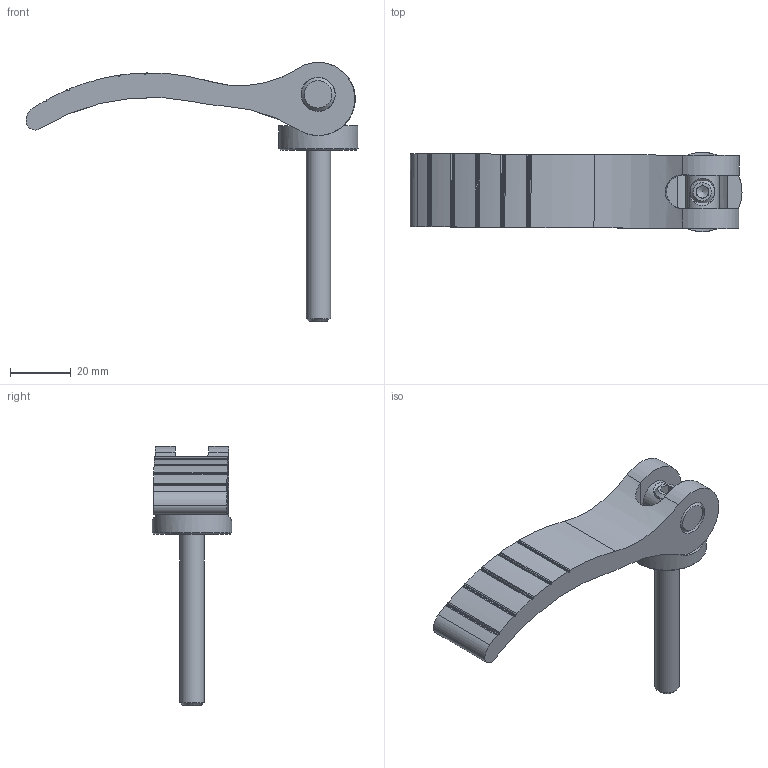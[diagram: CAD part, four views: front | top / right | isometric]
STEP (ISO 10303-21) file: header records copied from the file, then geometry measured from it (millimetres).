
FILE_DESCRIPTION(('STEP AP203'), '1');
FILE_NAME('À00360.111080825 _ Ýêñöåíòðèê 108 ìì', '', ('UNSPECIFIED'), ('UNSPECIFIED'), 'C3D Converter', 'C3D Toolkit', '');
FILE_SCHEMA(('CONFIG_CONTROL_DESIGN'));
Length unit declared in the file: millimetre
Products named in the file (5): А00360.108.03; А00360.108.02; А00360.108.01
Assembly tree (4 placements, depth 2):
  (unnamed)
    А00360.108.03
    А00360.108.02
    А00360.108.01
    (unnamed)
Bounding box: 108.87 x 26 x 84.97 mm (x, y, z)
Volume: 30049.2 mm3; surface area: 13440.7 mm2
Topology: 4 solids, 4 shells, 79 faces, 203 edges, 132 vertices
Faces by surface type: cylinder 38, plane 33, cone 6, bspline 2
Full cylindrical faces by diameter (mm): 6.647 x1, 8 x1, 10.5 x1, 11 x1, 11.2 x2, 26 x1
Entity records: 4439 total; most frequent: CARTESIAN_POINT 2270, DIRECTION 424, ORIENTED_EDGE 370, EDGE_CURVE 185, AXIS2_PLACEMENT_3D 168, VERTEX_POINT 129, EDGE_LOOP 102, LINE 88
